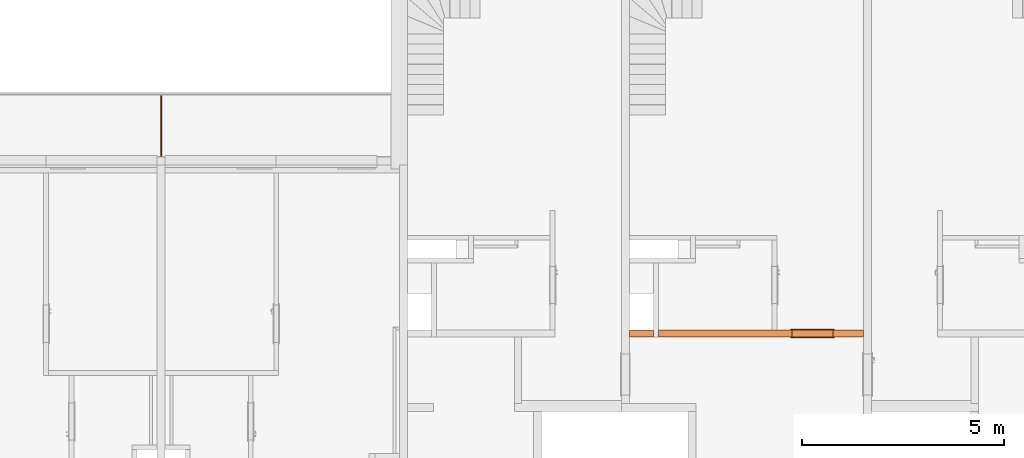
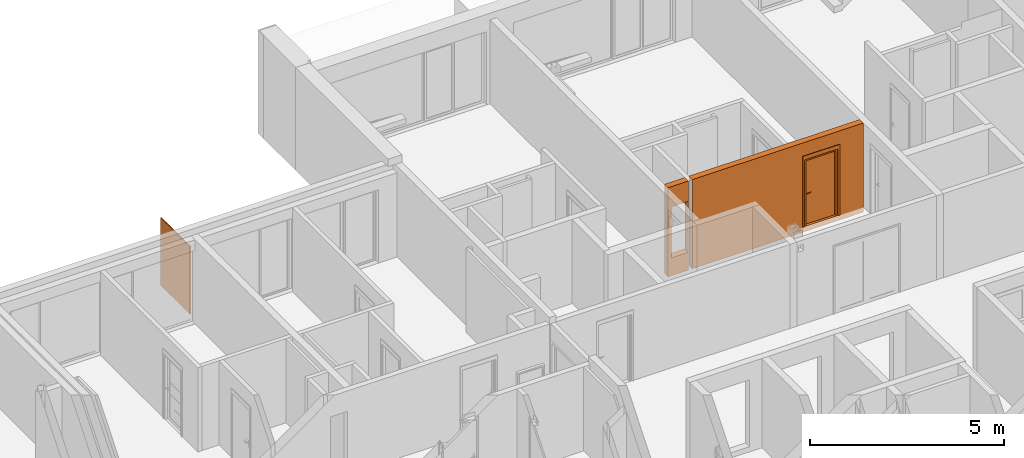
# One storey, part 30 of 61: 3 proxies, 2 openings.
"""IFC2X3 building model written with IfcOpenShell, lengths in millimetres."""

from ifc_helpers import new_model, entity, si_unit, converted_unit, derived_unit, money_unit, direction, frame, origin_with_axes, origin_2d_with_axis, place, context, subcontext, project, spatial, polyline, rectangle, outline, extrude, open_shell, faceted_brep, surface_model, source, transform, mapped, material, type_object, element, fill, save


model = new_model("IFC2X3")

# Units and contexts
model_context = context("Model", 3, precision=0.01, world=origin_with_axes(), true_north=direction((0.34421633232, 0.938890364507)))
body_context = subcontext(model_context, "Body", "Model", "MODEL_VIEW")
ifc_project = project(units=[si_unit("LENGTHUNIT", "METRE", prefix="MILLI"), si_unit("AREAUNIT", "SQUARE_METRE"), si_unit("VOLUMEUNIT", "CUBIC_METRE"), converted_unit("PLANEANGLEUNIT", "DEGREE", entity("IfcPlaneAngleMeasure", 0.0174532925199), si_unit("PLANEANGLEUNIT", "RADIAN"), dimensions=[0, 0, 0, 0, 0, 0, 0]), si_unit("SOLIDANGLEUNIT", "STERADIAN"), money_unit("USD"), converted_unit("TIMEUNIT", "Year", entity("IfcTimeMeasure", 31556926.0), si_unit("TIMEUNIT", "SECOND"), dimensions=[0, 0, 1, 0, 0, 0, 0]), si_unit("MASSUNIT", "GRAM", prefix="KILO"), si_unit("THERMODYNAMICTEMPERATUREUNIT", "DEGREE_CELSIUS"), si_unit("LUMINOUSINTENSITYUNIT", "LUMEN"), si_unit("ENERGYUNIT", "JOULE", prefix="MEGA"), derived_unit("THERMALCONDUCTANCEUNIT", [(si_unit("POWERUNIT", "WATT"), 1), (si_unit("LENGTHUNIT", "METRE"), -1), (si_unit("THERMODYNAMICTEMPERATUREUNIT", "KELVIN"), -1)]), derived_unit("SPECIFICHEATCAPACITYUNIT", [(si_unit("ENERGYUNIT", "JOULE"), 1), (si_unit("MASSUNIT", "GRAM", prefix="KILO"), -1), (si_unit("THERMODYNAMICTEMPERATUREUNIT", "KELVIN"), -1)]), derived_unit("MASSDENSITYUNIT", [(si_unit("MASSUNIT", "GRAM", prefix="KILO"), 1), (si_unit("VOLUMEUNIT", "CUBIC_METRE"), -1)])], contexts=[model_context])

# Site, building, storey
site_placement = place(None, origin_with_axes())
site = spatial("IfcSite", under=ifc_project, at=site_placement, Name="USTRONIE MORSKIE", CompositionType="ELEMENT")
building_placement = place(site_placement, origin_with_axes())
building = spatial("IfcBuilding", under=site, at=building_placement, Name="Budynek", CompositionType="ELEMENT")
storey_placement = place(building_placement, frame((0.0, 0.0, 13000.0), z_axis=(0.0, 0.0, 1.0), x_axis=(1.0, 0.0, 0.0)))
storey = spatial("IfcBuildingStorey", under=building, at=storey_placement, Name="PIĘTRO 4", CompositionType="ELEMENT", Elevation=13000.0)

# Proxies, openings
ifc_material_1 = material(Name="Bloczki silikatowe")
building_element_proxy_type_1 = type_object("IfcBuildingElementProxyType", Name="Bloczki silikatowe 180", PredefinedType="NOTDEFINED")
proxy_1_placement = place(storey_placement, frame((390817.920919, 740631.199036, -160.0), z_axis=(0.0, 0.0, 1.0), x_axis=(-1.0, 0.0, 0.0)))
proxy_1 = element("IfcBuildingElementProxy", 1, at=proxy_1_placement, inside=storey, type_object=building_element_proxy_type_1, material=ifc_material_1, Name="SW-02", context=body_context, shape_type="Brep", body=[
    faceted_brep([(5179.9965926, -90.0, 2800.0), (5179.9965926, 90.0, 2800.0), (100.0, 90.0, 2800.0), (100.0, -90.0, 2800.0), (5179.9965926, -90.0, 0.0), (5179.9965926, 90.0, 0.0), (100.0, 90.0, 0.0), (100.0, -90.0, 0.0)], [[[0, 1, 2, 3]], [[1, 0, 4, 5]], [[1, 5, 6, 2]], [[7, 3, 2, 6]], [[4, 0, 3, 7]], [[5, 4, 7, 6]]]),
    faceted_brep([(5900.0, -90.0, 2800.0), (5900.0, 90.0, 2800.0), (5299.9965926, 90.0, 2800.0), (5299.9965926, -90.0, 2800.0), (5900.0, -90.0, 0.0), (5900.0, 90.0, 0.0), (5299.9965926, 90.0, 0.0), (5299.9965926, -90.0, 0.0)], [[[0, 1, 2, 3]], [[1, 0, 4, 5]], [[1, 5, 6, 2]], [[7, 3, 2, 6]], [[4, 0, 3, 7]], [[5, 4, 7, 6]]]),
])
opening_1_placement = place(proxy_1_placement, frame((1360.0, 0.0, 160.0), z_axis=(0.0, 0.0, 1.0), x_axis=(1.0, 0.0, 0.0)))
opening_1 = element("IfcOpeningElement", 2, at=opening_1_placement, cuts=proxy_1, Name="Dw.1", context=body_context, shape_type="SweptSolid", body=[
    extrude(rectangle(XDim=1020.0, YDim=2120.0, at=origin_2d_with_axis()), frame((0.0, -180.0, 1060.0), z_axis=(0.0, 1.0, 0.0), x_axis=(-1.0, 0.0, 0.0)), (0.0, 0.0, 1.0), 540.0),
    extrude(rectangle(XDim=1094.0, YDim=2227.0, at=origin_2d_with_axis()), frame((0.0, -90.0, 1113.5), z_axis=(0.0, 1.0, 0.0), x_axis=(-1.0, 0.0, 0.0)), (0.0, 0.0, -1.0), 180.0),
    extrude(rectangle(XDim=1094.0, YDim=2227.0, at=origin_2d_with_axis()), frame((0.0, 90.0, 1113.5), z_axis=(0.0, -1.0, 0.0), x_axis=(-1.0, 0.0, 0.0)), (0.0, 0.0, -1.0), 180.0),
])
opening_2_placement = place(proxy_1_placement, frame((5550.0, 0.0, 560.0), z_axis=(0.0, 0.0, 1.0), x_axis=(1.0, 0.0, 0.0)))
element("IfcOpeningElement", 3, at=opening_2_placement, cuts=proxy_1, Name="R.01", context=body_context, shape_type="SweptSolid", body=[
    extrude(rectangle(XDim=500.0, YDim=1600.0, at=origin_2d_with_axis()), frame((0.0, 89.9999999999, 800.0), z_axis=(0.0, -1.0, 0.0), x_axis=(1.0, 0.0, 0.0)), (0.0, 0.0, -1.0), 180.0),
    extrude(rectangle(XDim=500.0, YDim=1600.0, at=origin_2d_with_axis()), frame((0.0, 89.9999999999, 800.0), z_axis=(0.0, 1.0, 0.0), x_axis=(1.0, 0.0, 0.0)), (0.0, 0.0, -1.0), 180.0),
])
building_element_proxy_type_2 = type_object("IfcBuildingElementProxyType", Name="Drzwi 23", PredefinedType="NOTDEFINED")
shared_shape = source(origin_with_axes(), body_context, "Body", "SurfaceModel", [
    faceted_brep([(-510.0, 0.0, 0.0), (-510.0, 65.0, 0.0), (-485.0, 65.0, 0.0), (-485.0, 0.0, 0.0), (-510.0, 0.0, 2120.0), (-510.0, 65.0, 2120.0), (-485.0, 65.0, 2095.0), (-485.0, 0.0, 2095.0)], [[[0, 1, 2, 3]], [[4, 5, 1, 0]], [[1, 5, 6, 2]], [[3, 2, 6, 7]], [[0, 3, 7, 4]], [[7, 6, 5, 4]]]),
    faceted_brep([(510.0, 0.0, 2120.0), (510.0, 65.0, 2120.0), (485.0, 65.0, 2095.0), (485.0, 0.0, 2095.0), (510.0, 0.0, 0.0), (510.0, 65.0, 0.0), (485.0, 65.0, 0.0), (485.0, 0.0, 0.0)], [[[0, 1, 2, 3]], [[4, 5, 1, 0]], [[1, 5, 6, 2]], [[3, 2, 6, 7]], [[0, 3, 7, 4]], [[7, 6, 5, 4]]]),
    faceted_brep([(-485.0, 0.0, 2095.0), (-485.0, 65.0, 2095.0), (485.0, 65.0, 2095.0), (485.0, 0.0, 2095.0), (-510.0, 0.0, 2120.0), (-510.0, 65.0, 2120.0), (510.0, 65.0, 2120.0), (510.0, 0.0, 2120.0)], [[[0, 1, 2, 3]], [[4, 5, 1, 0]], [[1, 5, 6, 2]], [[3, 2, 6, 7]], [[0, 3, 7, 4]], [[7, 6, 5, 4]]]),
    faceted_brep([(-547.0, 84.0, 0.0), (-497.0, 84.0, 0.0), (-497.0, 65.0, 0.0), (-547.0, 65.0, 0.0), (-547.0, 84.0, 2227.0), (-497.0, 84.0, 2107.0), (-497.0, 65.0, 2107.0), (-547.0, 65.0, 2227.0)], [[[0, 1, 2, 3]], [[0, 4, 5, 1]], [[1, 5, 6, 2]], [[3, 2, 6, 7]], [[4, 0, 3, 7]], [[5, 4, 7, 6]]]),
    faceted_brep([(547.0, 84.0, 2227.0), (497.0, 84.0, 2107.0), (497.0, 65.0, 2107.0), (547.0, 65.0, 2227.0), (547.0, 84.0, 0.0), (497.0, 84.0, 0.0), (497.0, 65.0, 0.0), (547.0, 65.0, 0.0)], [[[0, 1, 2, 3]], [[0, 4, 5, 1]], [[1, 5, 6, 2]], [[3, 2, 6, 7]], [[4, 0, 3, 7]], [[5, 4, 7, 6]]]),
    faceted_brep([(-547.0, 84.0, 2227.0), (-497.0, 84.0, 2107.0), (-497.0, 65.0, 2107.0), (-547.0, 65.0, 2227.0), (547.0, 84.0, 2227.0), (497.0, 84.0, 2107.0), (497.0, 65.0, 2107.0), (547.0, 65.0, 2227.0)], [[[0, 1, 2, 3]], [[0, 4, 5, 1]], [[1, 5, 6, 2]], [[3, 2, 6, 7]], [[4, 0, 3, 7]], [[5, 4, 7, 6]]]),
    faceted_brep([(-547.0, -134.0, 0.0), (-547.0, -115.0, 0.0), (-497.0, -115.0, 0.0), (-497.0, -134.0, 0.0), (-547.0, -134.0, 2227.0), (-547.0, -115.0, 2227.0), (-497.0, -115.0, 2107.0), (-497.0, -134.0, 2107.0)], [[[0, 1, 2, 3]], [[4, 5, 1, 0]], [[1, 5, 6, 2]], [[3, 2, 6, 7]], [[0, 3, 7, 4]], [[7, 6, 5, 4]]]),
    faceted_brep([(547.0, -134.0, 2227.0), (547.0, -115.0, 2227.0), (497.0, -115.0, 2107.0), (497.0, -134.0, 2107.0), (547.0, -134.0, 0.0), (547.0, -115.0, 0.0), (497.0, -115.0, 0.0), (497.0, -134.0, 0.0)], [[[0, 1, 2, 3]], [[4, 5, 1, 0]], [[1, 5, 6, 2]], [[3, 2, 6, 7]], [[0, 3, 7, 4]], [[7, 6, 5, 4]]]),
    faceted_brep([(-547.0, -134.0, 2227.0), (-547.0, -115.0, 2227.0), (-497.0, -115.0, 2107.0), (-497.0, -134.0, 2107.0), (547.0, -134.0, 2227.0), (547.0, -115.0, 2227.0), (497.0, -115.0, 2107.0), (497.0, -134.0, 2107.0)], [[[0, 1, 2, 3]], [[4, 5, 1, 0]], [[1, 5, 6, 2]], [[3, 2, 6, 7]], [[0, 3, 7, 4]], [[7, 6, 5, 4]]]),
    faceted_brep([(-450.0, -40.0, 0.0), (-450.0, -40.0, 2050.0), (-450.0, -115.0, 2050.0), (-450.0, -115.0, 0.0), (-462.0, -40.0, 2050.0), (-462.0, -40.0, 0.0), (-462.0, 0.0, 2050.0), (-510.0, 0.0, 2050.0), (-510.0, -115.0, 2050.0), (-510.0, -115.0, 0.0), (-510.0, 0.0, 0.0), (-462.0, 0.0, 0.0)], [[[0, 1, 2, 3]], [[4, 1, 0, 5]], [[4, 6, 7, 8, 2, 1]], [[3, 2, 8, 9]], [[5, 0, 3, 9, 10, 11]], [[6, 4, 5, 11]], [[6, 11, 10, 7]], [[10, 9, 8, 7]]]),
    faceted_brep([(462.0, -40.0, 2050.0), (450.0, -40.0, 2050.0), (450.0, -115.0, 2050.0), (510.0, -115.0, 2050.0), (510.0, 0.0, 2050.0), (462.0, 0.0, 2050.0), (462.0, -40.0, 0.0), (450.0, -40.0, 0.0), (450.0, -115.0, 0.0), (510.0, -115.0, 0.0), (510.0, 0.0, 0.0), (462.0, 0.0, 0.0)], [[[0, 1, 2, 3, 4, 5]], [[1, 0, 6, 7]], [[1, 7, 8, 2]], [[3, 2, 8, 9]], [[4, 3, 9, 10]], [[11, 5, 4, 10]], [[0, 5, 11, 6]], [[6, 11, 10, 9, 8, 7]]]),
    faceted_brep([(-462.0, 0.0, 2062.0), (-462.0, 0.0, 2050.0), (-510.0, 0.0, 2050.0), (-510.0, 0.0, 2120.0), (510.0, 0.0, 2120.0), (510.0, 0.0, 2050.0), (462.0, 0.0, 2050.0), (462.0, 0.0, 2062.0), (-462.0, -40.0, 2062.0), (-462.0, -40.0, 2050.0), (-450.0, -40.0, 2050.0), (-450.0, -115.0, 2050.0), (-510.0, -115.0, 2050.0), (-510.0, -115.0, 2120.0), (510.0, -115.0, 2120.0), (510.0, -115.0, 2050.0), (462.0, -40.0, 2050.0), (450.0, -115.0, 2050.0), (450.0, -40.0, 2050.0), (462.0, -40.0, 2062.0)], [[[0, 1, 2, 3, 4, 5, 6, 7]], [[1, 0, 8, 9]], [[9, 10, 11, 12, 2, 1]], [[2, 12, 13, 3]], [[3, 13, 14, 4]], [[4, 14, 15, 5]], [[16, 6, 5, 15, 17, 18]], [[7, 6, 16, 19]], [[0, 7, 19, 8]], [[16, 18, 10, 9, 8, 19]], [[10, 18, 17, 11]], [[17, 15, 14, 13, 12, 11]]]),
    faceted_brep([(-440.5, -40.0, 1060.0), (-440.5, -43.0, 1060.0), (-383.5, -43.0, 1060.0), (-383.5, -40.0, 1060.0), (-440.5, -40.0, 870.0), (-440.5, -43.0, 870.0), (-383.5, -43.0, 870.0), (-383.5, -40.0, 870.0)], [[[0, 1, 2, 3]], [[4, 5, 1, 0]], [[1, 5, 6, 2]], [[3, 2, 6, 7]], [[0, 3, 7, 4]], [[7, 6, 5, 4]]]),
    faceted_brep([(-412.0, -104.0, 990.0), (-412.0, -111.0, 990.0), (-417.0, -111.0, 991.339745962), (-417.0, -104.0, 991.339745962), (-387.0, -104.0, 990.0), (-387.0, -111.0, 990.0), (-387.0, -111.0, 1010.0), (-412.0, -111.0, 1010.0), (-417.0, -111.0, 1008.66025404), (-420.660254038, -111.0, 1005.0), (-422.0, -111.0, 1000.0), (-420.660254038, -111.0, 995.0), (-420.660254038, -104.0, 995.0), (-422.0, -104.0, 1000.0), (-420.660254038, -104.0, 1005.0), (-417.0, -104.0, 1008.66025404), (-412.0, -104.0, 1010.0), (-387.0, -104.0, 1010.0)], [[[0, 1, 2, 3]], [[4, 5, 1, 0]], [[1, 5, 6, 7, 8, 9, 10, 11, 2]], [[3, 2, 11, 12]], [[0, 3, 12, 13, 14, 15, 16, 17, 4]], [[17, 6, 5, 4]], [[16, 7, 6, 17]], [[15, 8, 7, 16]], [[14, 9, 8, 15]], [[13, 10, 9, 14]], [[12, 11, 10, 13]]]),
    surface_model("IfcShellBasedSurfaceModel", [(-387.0, -104.0, 1010.0), (-373.596090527, -111.0, 1009.60730092), (-373.901717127, -104.0, 1009.60730092), (-387.0, -111.0, 1010.0), (-346.890283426, -108.663544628, 1008.82190275), (-373.901717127, -104.0, 990.392699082), (-387.0, -104.0, 990.0), (-387.0, -111.0, 990.0), (-373.596090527, -111.0, 990.392699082), (-346.890283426, -108.663544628, 991.178097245), (-347.804837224, -101.716818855, 1008.82190275), (-347.804837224, -101.716818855, 991.178097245), (-320.489735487, -104.008415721, 991.963495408), (-320.489735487, -104.008415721, 1008.03650459), (-322.006256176, -97.1678329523, 1008.03650459), (-322.006256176, -97.1678329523, 991.963495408), (-294.59537082, -97.0700416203, 992.748893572), (-294.59537082, -97.0700416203, 1007.25110643), (-296.702316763, -90.3876628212, 1007.25110643), (-296.702316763, -90.3876628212, 992.748893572), (-286.538795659, -94.1376880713, 993.0), (-286.538795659, -94.1376880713, 1007.0), (-288.829442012, -87.5221707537, 1007.0), (-288.829442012, -87.5221707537, 993.0)], [open_shell([[[0, 1, 2]], [[0, 3, 1]], [[2, 1, 4]], [[0, 2, 5, 6]], [[3, 7, 8, 1]], [[1, 8, 9, 4]], [[2, 4, 10]], [[2, 10, 11, 5]], [[5, 7, 6]], [[5, 8, 7]], [[11, 9, 8]], [[4, 9, 12, 13]], [[10, 4, 13]], [[10, 14, 15, 11]], [[11, 8, 5]], [[15, 9, 11]], [[15, 12, 9]], [[13, 12, 16, 17]], [[10, 13, 14]], [[14, 18, 19, 15]], [[19, 12, 15]], [[19, 16, 12]], [[17, 16, 20, 21]], [[14, 13, 17]], [[14, 17, 18]], [[18, 22, 23, 19]], [[23, 16, 19]], [[23, 20, 16]], [[22, 21, 20, 23]], [[18, 17, 21]], [[18, 21, 22]]])]),
    faceted_brep([(-401.607695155, -53.0, 994.0), (-400.741669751, -43.0, 993.5), (-399.0, -43.0, 1000.0), (-400.0, -53.0, 1000.0), (-406.0, -53.0, 989.607695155), (-405.5, -43.0, 988.741669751), (-412.0, -43.0, 987.0), (-418.5, -43.0, 988.741669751), (-423.258330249, -43.0, 993.5), (-425.0, -43.0, 1000.0), (-423.258330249, -43.0, 1006.5), (-418.5, -43.0, 1011.25833025), (-412.0, -43.0, 1013.0), (-405.5, -43.0, 1011.25833025), (-400.741669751, -43.0, 1006.5), (-401.607695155, -53.0, 1006.0), (-406.0, -53.0, 1010.39230485), (-412.0, -53.0, 1012.0), (-418.0, -53.0, 1010.39230485), (-422.392304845, -53.0, 1006.0), (-424.0, -53.0, 1000.0), (-422.392304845, -53.0, 994.0), (-418.0, -53.0, 989.607695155), (-412.0, -53.0, 988.0)], [[[0, 1, 2, 3]], [[4, 5, 1, 0]], [[2, 1, 5, 6, 7, 8, 9, 10, 11, 12, 13, 14]], [[3, 2, 14, 15]], [[3, 15, 16, 17, 18, 19, 20, 21, 22, 23, 4, 0]], [[23, 6, 5, 4]], [[22, 7, 6, 23]], [[21, 8, 7, 22]], [[20, 9, 8, 21]], [[19, 10, 9, 20]], [[18, 11, 10, 19]], [[17, 12, 11, 18]], [[16, 13, 12, 17]], [[15, 14, 13, 16]]]),
    faceted_brep([(-394.679491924, -47.0, 895.0), (-392.947441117, -43.0, 894.0), (-390.0, -43.0, 905.0), (-392.0, -47.0, 905.0), (-402.0, -47.0, 887.679491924), (-401.0, -43.0, 885.947441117), (-412.0, -43.0, 883.0), (-423.0, -43.0, 885.947441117), (-431.052558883, -43.0, 894.0), (-434.0, -43.0, 905.0), (-431.052558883, -43.0, 916.0), (-423.0, -43.0, 924.052558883), (-412.0, -43.0, 927.0), (-401.0, -43.0, 924.052558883), (-392.947441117, -43.0, 916.0), (-394.679491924, -47.0, 915.0), (-402.0, -47.0, 922.320508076), (-412.0, -47.0, 925.0), (-422.0, -47.0, 922.320508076), (-429.320508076, -47.0, 915.0), (-432.0, -47.0, 905.0), (-429.320508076, -47.0, 895.0), (-422.0, -47.0, 887.679491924), (-412.0, -47.0, 885.0)], [[[0, 1, 2, 3]], [[4, 5, 1, 0]], [[2, 1, 5, 6, 7, 8, 9, 10, 11, 12, 13, 14]], [[3, 2, 14, 15]], [[3, 15, 16, 17, 18, 19, 20, 21, 22, 23, 4, 0]], [[23, 6, 5, 4]], [[22, 7, 6, 23]], [[21, 8, 7, 22]], [[20, 9, 8, 21]], [[19, 10, 9, 20]], [[18, 11, 10, 19]], [[17, 12, 11, 18]], [[16, 13, 12, 17]], [[15, 14, 13, 16]]]),
    faceted_brep([(-407.050252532, -49.0, 909.050252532), (-406.343145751, -47.0, 908.343145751), (-404.0, -47.0, 914.0), (-405.0, -49.0, 914.0), (-412.0, -49.0, 907.0), (-412.0, -47.0, 906.0), (-417.656854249, -47.0, 908.343145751), (-420.0, -47.0, 914.0), (-417.656854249, -47.0, 919.656854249), (-412.0, -47.0, 922.0), (-406.343145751, -47.0, 919.656854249), (-407.050252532, -49.0, 918.949747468), (-412.0, -49.0, 921.0), (-416.949747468, -49.0, 918.949747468), (-419.0, -49.0, 914.0), (-416.949747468, -49.0, 909.050252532)], [[[0, 1, 2, 3]], [[4, 5, 1, 0]], [[2, 1, 5, 6, 7, 8, 9, 10]], [[3, 2, 10, 11]], [[3, 11, 12, 13, 14, 15, 4, 0]], [[15, 6, 5, 4]], [[14, 7, 6, 15]], [[13, 8, 7, 14]], [[12, 9, 8, 13]], [[11, 10, 9, 12]]]),
    faceted_brep([(-412.0, -53.0, 1010.0), (-412.0, -104.0, 1010.0), (-407.0, -104.0, 1008.66025404), (-407.0, -53.0, 1008.66025404), (-417.0, -53.0, 1008.66025404), (-417.0, -104.0, 1008.66025404), (-420.660254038, -104.0, 1005.0), (-422.0, -104.0, 1000.0), (-420.660254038, -104.0, 995.0), (-417.0, -104.0, 991.339745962), (-412.0, -104.0, 990.0), (-407.0, -104.0, 991.339745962), (-403.339745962, -104.0, 995.0), (-402.0, -104.0, 1000.0), (-403.339745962, -104.0, 1005.0), (-403.339745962, -53.0, 1005.0), (-402.0, -53.0, 1000.0), (-403.339745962, -53.0, 995.0), (-407.0, -53.0, 991.339745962), (-412.0, -53.0, 990.0), (-417.0, -53.0, 991.339745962), (-420.660254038, -53.0, 995.0), (-422.0, -53.0, 1000.0), (-420.660254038, -53.0, 1005.0)], [[[0, 1, 2, 3]], [[4, 5, 1, 0]], [[1, 5, 6, 7, 8, 9, 10, 11, 12, 13, 14, 2]], [[3, 2, 14, 15]], [[0, 3, 15, 16, 17, 18, 19, 20, 21, 22, 23, 4]], [[23, 6, 5, 4]], [[22, 7, 6, 23]], [[21, 8, 7, 22]], [[20, 9, 8, 21]], [[19, 10, 9, 20]], [[18, 11, 10, 19]], [[17, 12, 11, 18]], [[16, 13, 12, 17]], [[15, 14, 13, 16]]]),
    faceted_brep([(-440.5, 0.0, 1060.0), (-383.5, 0.0, 1060.0), (-383.5, 3.0, 1060.0), (-440.5, 3.0, 1060.0), (-440.5, 0.0, 870.0), (-383.5, 0.0, 870.0), (-383.5, 3.0, 870.0), (-440.5, 3.0, 870.0)], [[[0, 1, 2, 3]], [[0, 4, 5, 1]], [[1, 5, 6, 2]], [[3, 2, 6, 7]], [[4, 0, 3, 7]], [[5, 4, 7, 6]]]),
    faceted_brep([(-412.0, 64.0, 990.0), (-417.0, 64.0, 991.339745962), (-417.0, 71.0, 991.339745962), (-412.0, 71.0, 990.0), (-387.0, 64.0, 990.0), (-387.0, 64.0, 1010.0), (-412.0, 64.0, 1010.0), (-417.0, 64.0, 1008.66025404), (-420.660254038, 64.0, 1005.0), (-422.0, 64.0, 1000.0), (-420.660254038, 64.0, 995.0), (-420.660254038, 71.0, 995.0), (-422.0, 71.0, 1000.0), (-420.660254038, 71.0, 1005.0), (-417.0, 71.0, 1008.66025404), (-412.0, 71.0, 1010.0), (-387.0, 71.0, 1010.0), (-387.0, 71.0, 990.0)], [[[0, 1, 2, 3]], [[0, 4, 5, 6, 7, 8, 9, 10, 1]], [[1, 10, 11, 2]], [[3, 2, 11, 12, 13, 14, 15, 16, 17]], [[4, 0, 3, 17]], [[5, 4, 17, 16]], [[6, 5, 16, 15]], [[7, 6, 15, 14]], [[8, 7, 14, 13]], [[9, 8, 13, 12]], [[10, 9, 12, 11]]]),
    surface_model("IfcShellBasedSurfaceModel", [(-387.0, 64.0, 1010.0), (-373.901717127, 64.0, 1009.60730092), (-373.596090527, 71.0, 1009.60730092), (-387.0, 64.0, 990.0), (-373.901717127, 64.0, 990.392699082), (-346.890283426, 68.6635446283, 1008.82190275), (-387.0, 71.0, 1010.0), (-387.0, 71.0, 990.0), (-347.804837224, 61.716818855, 991.178097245), (-347.804837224, 61.716818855, 1008.82190275), (-346.890283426, 68.6635446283, 991.178097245), (-373.596090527, 71.0, 990.392699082), (-322.006256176, 57.1678329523, 991.963495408), (-322.006256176, 57.1678329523, 1008.03650459), (-320.489735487, 64.0084157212, 1008.03650459), (-320.489735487, 64.0084157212, 991.963495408), (-296.702316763, 50.3876628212, 992.748893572), (-296.702316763, 50.3876628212, 1007.25110643), (-294.59537082, 57.0700416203, 1007.25110643), (-294.59537082, 57.0700416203, 992.748893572), (-288.829442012, 47.5221707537, 993.0), (-288.829442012, 47.5221707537, 1007.0), (-286.538795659, 54.1376880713, 1007.0), (-286.538795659, 54.1376880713, 993.0)], [open_shell([[[0, 1, 2]], [[0, 3, 4, 1]], [[1, 5, 2]], [[0, 2, 6]], [[4, 3, 7]], [[1, 4, 8, 9]], [[1, 9, 5]], [[2, 5, 10, 11]], [[6, 2, 11, 7]], [[4, 7, 11]], [[8, 4, 11]], [[9, 8, 12, 13]], [[9, 14, 5]], [[5, 14, 15, 10]], [[8, 11, 10]], [[12, 8, 10]], [[13, 12, 16, 17]], [[9, 13, 14]], [[14, 18, 19, 15]], [[12, 10, 15]], [[16, 12, 15]], [[17, 16, 20, 21]], [[13, 17, 18]], [[13, 18, 14]], [[18, 22, 23, 19]], [[16, 15, 19]], [[20, 16, 19]], [[21, 20, 23, 22]], [[17, 21, 22]], [[17, 22, 18]], [[20, 19, 23]]])]),
    faceted_brep([(-401.607695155, 13.0, 994.0), (-400.0, 13.0, 1000.0), (-399.0, 3.0, 1000.0), (-400.741669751, 3.0, 993.5), (-406.0, 13.0, 989.607695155), (-412.0, 13.0, 988.0), (-418.0, 13.0, 989.607695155), (-422.392304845, 13.0, 994.0), (-424.0, 13.0, 1000.0), (-422.392304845, 13.0, 1006.0), (-418.0, 13.0, 1010.39230485), (-412.0, 13.0, 1012.0), (-406.0, 13.0, 1010.39230485), (-401.607695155, 13.0, 1006.0), (-400.741669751, 3.0, 1006.5), (-405.5, 3.0, 1011.25833025), (-412.0, 3.0, 1013.0), (-418.5, 3.0, 1011.25833025), (-423.258330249, 3.0, 1006.5), (-425.0, 3.0, 1000.0), (-423.258330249, 3.0, 993.5), (-418.5, 3.0, 988.741669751), (-412.0, 3.0, 987.0), (-405.5, 3.0, 988.741669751)], [[[0, 1, 2, 3]], [[1, 0, 4, 5, 6, 7, 8, 9, 10, 11, 12, 13]], [[1, 13, 14, 2]], [[2, 14, 15, 16, 17, 18, 19, 20, 21, 22, 23, 3]], [[4, 0, 3, 23]], [[5, 4, 23, 22]], [[6, 5, 22, 21]], [[7, 6, 21, 20]], [[8, 7, 20, 19]], [[9, 8, 19, 18]], [[10, 9, 18, 17]], [[11, 10, 17, 16]], [[12, 11, 16, 15]], [[13, 12, 15, 14]]]),
    faceted_brep([(-394.679491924, 7.0, 895.0), (-392.0, 7.0, 905.0), (-390.0, 3.0, 905.0), (-392.947441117, 3.0, 894.0), (-402.0, 7.0, 887.679491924), (-412.0, 7.0, 885.0), (-422.0, 7.0, 887.679491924), (-429.320508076, 7.0, 895.0), (-432.0, 7.0, 905.0), (-429.320508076, 7.0, 915.0), (-422.0, 7.0, 922.320508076), (-412.0, 7.0, 925.0), (-402.0, 7.0, 922.320508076), (-394.679491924, 7.0, 915.0), (-392.947441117, 3.0, 916.0), (-401.0, 3.0, 924.052558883), (-412.0, 3.0, 927.0), (-423.0, 3.0, 924.052558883), (-431.052558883, 3.0, 916.0), (-434.0, 3.0, 905.0), (-431.052558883, 3.0, 894.0), (-423.0, 3.0, 885.947441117), (-412.0, 3.0, 883.0), (-401.0, 3.0, 885.947441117)], [[[0, 1, 2, 3]], [[1, 0, 4, 5, 6, 7, 8, 9, 10, 11, 12, 13]], [[1, 13, 14, 2]], [[2, 14, 15, 16, 17, 18, 19, 20, 21, 22, 23, 3]], [[4, 0, 3, 23]], [[5, 4, 23, 22]], [[6, 5, 22, 21]], [[7, 6, 21, 20]], [[8, 7, 20, 19]], [[9, 8, 19, 18]], [[10, 9, 18, 17]], [[11, 10, 17, 16]], [[12, 11, 16, 15]], [[13, 12, 15, 14]]]),
    faceted_brep([(-407.050252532, 9.0, 909.050252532), (-405.0, 9.0, 914.0), (-404.0, 7.0, 914.0), (-406.343145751, 7.0, 908.343145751), (-412.0, 9.0, 907.0), (-416.949747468, 9.0, 909.050252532), (-419.0, 9.0, 914.0), (-416.949747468, 9.0, 918.949747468), (-412.0, 9.0, 921.0), (-407.050252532, 9.0, 918.949747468), (-406.343145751, 7.0, 919.656854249), (-412.0, 7.0, 922.0), (-417.656854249, 7.0, 919.656854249), (-420.0, 7.0, 914.0), (-417.656854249, 7.0, 908.343145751), (-412.0, 7.0, 906.0)], [[[0, 1, 2, 3]], [[1, 0, 4, 5, 6, 7, 8, 9]], [[1, 9, 10, 2]], [[2, 10, 11, 12, 13, 14, 15, 3]], [[4, 0, 3, 15]], [[5, 4, 15, 14]], [[6, 5, 14, 13]], [[7, 6, 13, 12]], [[8, 7, 12, 11]], [[9, 8, 11, 10]]]),
    faceted_brep([(-412.0, 13.0, 1010.0), (-407.0, 13.0, 1008.66025404), (-407.0, 64.0, 1008.66025404), (-412.0, 64.0, 1010.0), (-417.0, 13.0, 1008.66025404), (-420.660254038, 13.0, 1005.0), (-422.0, 13.0, 1000.0), (-420.660254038, 13.0, 995.0), (-417.0, 13.0, 991.339745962), (-412.0, 13.0, 990.0), (-407.0, 13.0, 991.339745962), (-403.339745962, 13.0, 995.0), (-402.0, 13.0, 1000.0), (-403.339745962, 13.0, 1005.0), (-403.339745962, 64.0, 1005.0), (-402.0, 64.0, 1000.0), (-403.339745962, 64.0, 995.0), (-407.0, 64.0, 991.339745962), (-412.0, 64.0, 990.0), (-417.0, 64.0, 991.339745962), (-420.660254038, 64.0, 995.0), (-422.0, 64.0, 1000.0), (-420.660254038, 64.0, 1005.0), (-417.0, 64.0, 1008.66025404)], [[[0, 1, 2, 3]], [[0, 4, 5, 6, 7, 8, 9, 10, 11, 12, 13, 1]], [[1, 13, 14, 2]], [[3, 2, 14, 15, 16, 17, 18, 19, 20, 21, 22, 23]], [[4, 0, 3, 23]], [[5, 4, 23, 22]], [[6, 5, 22, 21]], [[7, 6, 21, 20]], [[8, 7, 20, 19]], [[9, 8, 19, 18]], [[10, 9, 18, 17]], [[11, 10, 17, 16]], [[12, 11, 16, 15]], [[13, 12, 15, 14]]]),
    faceted_brep([(462.0, 0.0, 0.0), (462.0, -40.0, 0.0), (-462.0, -40.0, 0.0), (-462.0, 0.0, 0.0), (462.0, 0.0, 2062.0), (462.0, -40.0, 2062.0), (-462.0, -40.0, 2062.0), (-462.0, 0.0, 2062.0)], [[[0, 1, 2, 3]], [[4, 5, 1, 0]], [[1, 5, 6, 2]], [[3, 2, 6, 7]], [[0, 3, 7, 4]], [[7, 6, 5, 4]]]),
])
proxy_2_placement = place(opening_1_placement, frame((450.0, 0.0, 0.0), z_axis=(0.0, 0.0, 1.0), x_axis=(-1.0, 0.0, 0.0)))
proxy_2 = element("IfcBuildingElementProxy", 4, at=proxy_2_placement, inside=storey, type_object=building_element_proxy_type_2, Name="Dw.1", context=body_context, shape_type="MappedRepresentation", body=[
    mapped(shared_shape, transform((450.0, 25.0, 0.0))),
])
fill(opening_1, proxy_2)

# Proxy
ifc_material_2 = material(Name="Woda")
building_element_proxy_type_3 = type_object("IfcBuildingElementProxyType", Name="Woda 30", PredefinedType="NOTDEFINED")
proxy_3_placement = place(storey_placement, frame((373317.920919, 745021.206184, 20.0), z_axis=(0.0, 0.0, 1.0), x_axis=(0.0, 1.0, 0.0)))
element("IfcBuildingElementProxy", 5, at=proxy_3_placement, inside=storey, type_object=building_element_proxy_type_3, material=ifc_material_2, Name="Œciana-007", context=body_context, shape_type="SweptSolid", body=[
    extrude(outline(polyline([(0.0, -15.0), (1500.0, -15.0), (1500.0, 15.0), (0.0, 15.0), (0.0, -15.0)])), origin_with_axes(), (0.0, 0.0, 1.0), 2120.0),
])

save(model, "model.ifc")
